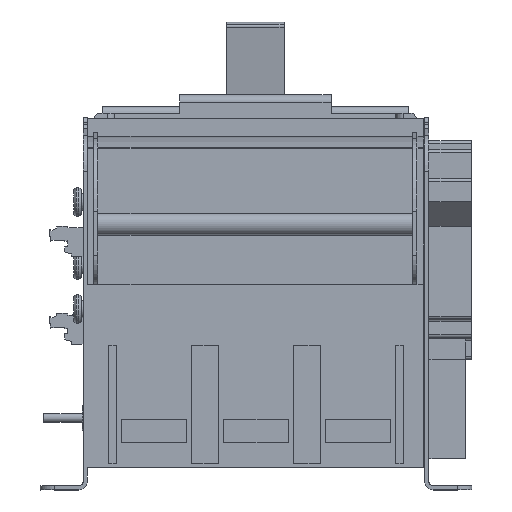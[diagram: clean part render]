
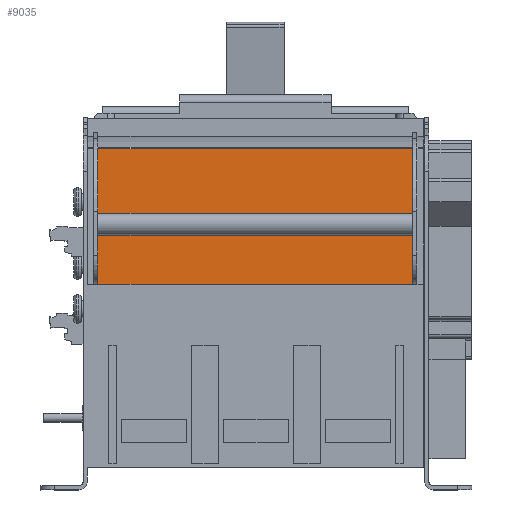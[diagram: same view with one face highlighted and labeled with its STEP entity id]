
A CAD part, front view. The second image highlights one B-rep face of the part: STEP entity #9035.
In plain terms, the highlighted planar face has unit normal (0, -1, 0).
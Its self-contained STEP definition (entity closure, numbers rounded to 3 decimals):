
#195 = PLANE ( 'NONE',  #344 ) ;
#344 = AXIS2_PLACEMENT_3D ( 'NONE', #13143, #8311, #8019 ) ;
#1310 = EDGE_CURVE ( 'NONE', #4247, #20915, #18310, .T. ) ;
#1411 = LINE ( 'NONE', #3433, #6249 ) ;
#2104 = DIRECTION ( 'NONE',  ( 1., 0., 0. ) ) ;
#2965 = VECTOR ( 'NONE', #2104, 1000. ) ;
#3328 = CARTESIAN_POINT ( 'NONE',  ( -108., -203.55, 234.303 ) ) ;
#3433 = CARTESIAN_POINT ( 'NONE',  ( 108., -203.55, 234.303 ) ) ;
#3577 = ORIENTED_EDGE ( 'NONE', *, *, #11389, .F. ) ;
#3711 = VECTOR ( 'NONE', #20784, 1000. ) ;
#4247 = VERTEX_POINT ( 'NONE', #11022 ) ;
#6249 = VECTOR ( 'NONE', #15003, 1000. ) ;
#7855 = CARTESIAN_POINT ( 'NONE',  ( 108., -203.55, 234.303 ) ) ;
#8019 = DIRECTION ( 'NONE',  ( 0., 0., -1. ) ) ;
#8311 = DIRECTION ( 'NONE',  ( 0., -1., 0. ) ) ;
#9035 = ADVANCED_FACE ( 'NONE', ( #11586 ), #195, .T. ) ;
#9344 = CARTESIAN_POINT ( 'NONE',  ( -115.7, -203.55, 141.3 ) ) ;
#9971 = ORIENTED_EDGE ( 'NONE', *, *, #13635, .T. ) ;
#10297 = CARTESIAN_POINT ( 'NONE',  ( -115.7, -203.55, 234.303 ) ) ;
#11022 = CARTESIAN_POINT ( 'NONE',  ( -108., -203.55, 141.3 ) ) ;
#11149 = ORIENTED_EDGE ( 'NONE', *, *, #1310, .T. ) ;
#11389 = EDGE_CURVE ( 'NONE', #4247, #12277, #14581, .T. ) ;
#11417 = DIRECTION ( 'NONE',  ( 0., 0., 1. ) ) ;
#11586 = FACE_OUTER_BOUND ( 'NONE', #16955, .T. ) ;
#11884 = CARTESIAN_POINT ( 'NONE',  ( -108., -203.55, 234.303 ) ) ;
#12277 = VERTEX_POINT ( 'NONE', #11884 ) ;
#13143 = CARTESIAN_POINT ( 'NONE',  ( -115.7, -203.55, 234.303 ) ) ;
#13635 = EDGE_CURVE ( 'NONE', #20915, #17101, #1411, .T. ) ;
#14581 = LINE ( 'NONE', #3328, #18890 ) ;
#15003 = DIRECTION ( 'NONE',  ( 0., 0., 1. ) ) ;
#16084 = CARTESIAN_POINT ( 'NONE',  ( 108., -203.55, 141.3 ) ) ;
#16955 = EDGE_LOOP ( 'NONE', ( #3577, #11149, #9971, #18827 ) ) ;
#17101 = VERTEX_POINT ( 'NONE', #7855 ) ;
#18310 = LINE ( 'NONE', #9344, #3711 ) ;
#18820 = LINE ( 'NONE', #10297, #2965 ) ;
#18827 = ORIENTED_EDGE ( 'NONE', *, *, #20075, .F. ) ;
#18890 = VECTOR ( 'NONE', #11417, 1000. ) ;
#20075 = EDGE_CURVE ( 'NONE', #12277, #17101, #18820, .T. ) ;
#20784 = DIRECTION ( 'NONE',  ( 1., 0., 0. ) ) ;
#20915 = VERTEX_POINT ( 'NONE', #16084 ) ;
